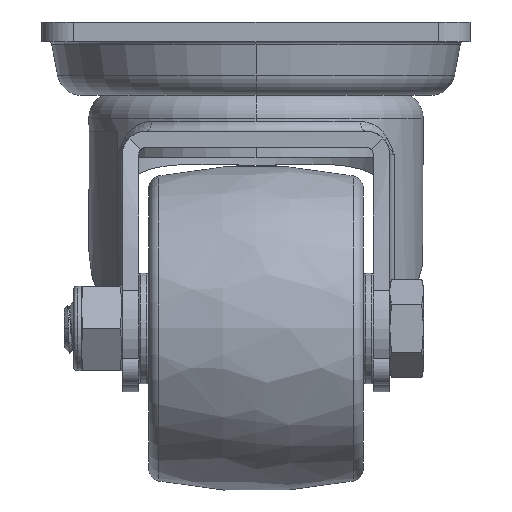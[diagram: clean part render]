
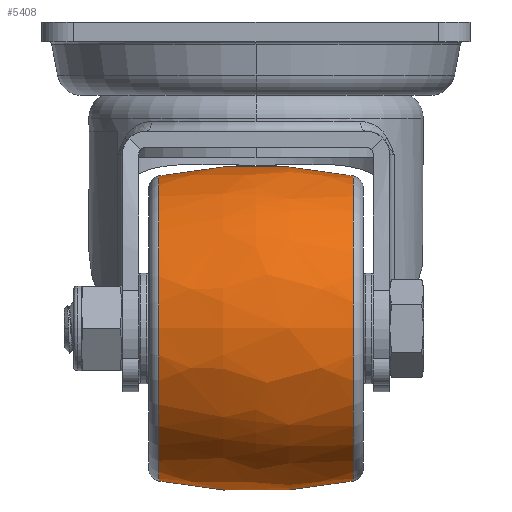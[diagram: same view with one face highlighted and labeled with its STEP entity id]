
A CAD part, left-side view. The second image highlights one B-rep face of the part: STEP entity #5408.
In plain terms, the highlighted free-form (B-spline) face has degree [3, 3] with [7, 4] control points.
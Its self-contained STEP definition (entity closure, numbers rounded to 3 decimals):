
#4936=CARTESIAN_POINT('',(-14.911,0.,0.));
#4937=DIRECTION('',(1.,0.,0.));
#4938=DIRECTION('',(0.,0.,-1.));
#4939=AXIS2_PLACEMENT_3D('',#4936,#4937,#4938);
#4946=CARTESIAN_POINT('',(0.,0.,47.595));
#4947=DIRECTION('',(0.,1.,0.));
#4948=DIRECTION('',(0.205,0.,-0.979));
#4949=AXIS2_PLACEMENT_3D('',#4946,#4947,#4948);
#4951=CARTESIAN_POINT('',(14.911,0.,0.));
#4952=DIRECTION('',(1.,0.,0.));
#4953=DIRECTION('',(0.,0.,-1.));
#4954=AXIS2_PLACEMENT_3D('',#4951,#4952,#4953);
#4956=CARTESIAN_POINT('',(0.,0.,
-47.595));
#4957=DIRECTION('',(0.,-1.,0.));
#4958=DIRECTION('',(0.205,0.,0.979));
#4959=AXIS2_PLACEMENT_3D('',#4956,#4957,#4958);
#5117=CARTESIAN_POINT('',(14.911,0.,-23.452));
#5119=VERTEX_POINT('',#5117);
#5120=CARTESIAN_POINT('',(-14.911,0.,-23.452));
#5121=VERTEX_POINT('',#5120);
#5151=CARTESIAN_POINT('',(14.911,0.,23.452));
#5153=VERTEX_POINT('',#5151);
#5154=CARTESIAN_POINT('',(-14.911,0.,23.452));
#5155=VERTEX_POINT('',#5154);
#5370=CARTESIAN_POINT('',(15.498,-1.465,23.28));
#5371=CARTESIAN_POINT('',(5.247,-1.605,25.516));
#5372=CARTESIAN_POINT('',(-5.247,-1.605,
25.516));
#5373=CARTESIAN_POINT('',(-15.498,-1.465,
23.28));
#5374=CARTESIAN_POINT('',(15.498,12.862,24.182));
#5375=CARTESIAN_POINT('',(5.247,14.097,26.504));
#5376=CARTESIAN_POINT('',(-5.247,14.097,26.504));
#5377=CARTESIAN_POINT('',(-15.498,12.862,24.182));
#5378=CARTESIAN_POINT('',(15.498,23.326,14.355));
#5379=CARTESIAN_POINT('',(5.247,25.567,15.734));
#5380=CARTESIAN_POINT('',(-5.247,25.567,15.734));
#5381=CARTESIAN_POINT('',(-15.498,23.326,14.355));
#5382=CARTESIAN_POINT('',(15.498,23.326,0.));
#5383=CARTESIAN_POINT('',(5.247,25.567,0.));
#5384=CARTESIAN_POINT('',(-5.247,25.567,0.));
#5385=CARTESIAN_POINT('',(-15.498,23.326,0.));
#5386=CARTESIAN_POINT('',(15.498,23.326,-14.355));
#5387=CARTESIAN_POINT('',(5.247,25.567,-15.734));
#5388=CARTESIAN_POINT('',(-5.247,25.567,
-15.734));
#5389=CARTESIAN_POINT('',(-15.498,23.326,
-14.355));
#5390=CARTESIAN_POINT('',(15.498,12.862,-24.182));
#5391=CARTESIAN_POINT('',(5.247,14.097,-26.504));
#5392=CARTESIAN_POINT('',(-5.247,14.097,
-26.504));
#5393=CARTESIAN_POINT('',(-15.498,12.862,
-24.182));
#5394=CARTESIAN_POINT('',(15.498,-1.465,
-23.28));
#5395=CARTESIAN_POINT('',(5.247,-1.605,
-25.516));
#5396=CARTESIAN_POINT('',(-5.247,-1.605,
-25.516));
#5397=CARTESIAN_POINT('',(-15.498,-1.465,
-23.28));
#5398=(BOUNDED_SURFACE()B_SPLINE_SURFACE(3,3,((#5370,#5371,#5372,#5373),(#5374,
#5375,#5376,#5377),(#5378,#5379,#5380,#5381),(#5382,#5383,#5384,#5385),(#5386,
#5387,#5388,#5389),(#5390,#5391,#5392,#5393),(#5394,#5395,#5396,#5397)),
.UNSPECIFIED.,.F.,.F.,.F.)B_SPLINE_SURFACE_WITH_KNOTS((4,3,4),(4,4),(0.,1.,
2.),(0.,1.),.UNSPECIFIED.)GEOMETRIC_REPRESENTATION_ITEM()RATIONAL_B_SPLINE_SURFACE(((1.201,1.183,1.183,1.201),(
0.949,0.934,0.934,0.949),(
0.949,0.934,0.934,0.949),(
1.201,1.183,1.183,1.201),(
0.949,0.934,0.934,0.949),(
0.949,0.934,0.934,0.949),(
1.201,1.183,1.183,1.201)))REPRESENTATION_ITEM('')SURFACE());
#5400=ORIENTED_EDGE('',*,*,#5399,.F.);
#5402=ORIENTED_EDGE('',*,*,#5401,.T.);
#5404=ORIENTED_EDGE('',*,*,#5403,.T.);
#5405=ORIENTED_EDGE('',*,*,#5363,.F.);
#5406=EDGE_LOOP('',(#5400,#5402,#5404,#5405));
#5407=FACE_OUTER_BOUND('',#5406,.F.);
#5408=ADVANCED_FACE('',(#5407),#5398,.T.);
#4940=CIRCLE('',#4939,23.452);
#4950=CIRCLE('',#4949,72.595);
#4955=CIRCLE('',#4954,23.452);
#4960=CIRCLE('',#4959,72.595);
#5363=EDGE_CURVE('',#5121,#5155,#4940,.T.);
#5399=EDGE_CURVE('',#5119,#5121,#4950,.T.);
#5401=EDGE_CURVE('',#5119,#5153,#4955,.T.);
#5403=EDGE_CURVE('',#5153,#5155,#4960,.T.);
